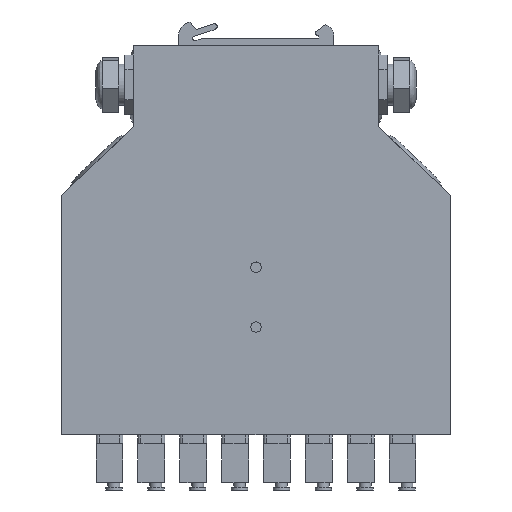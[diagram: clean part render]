
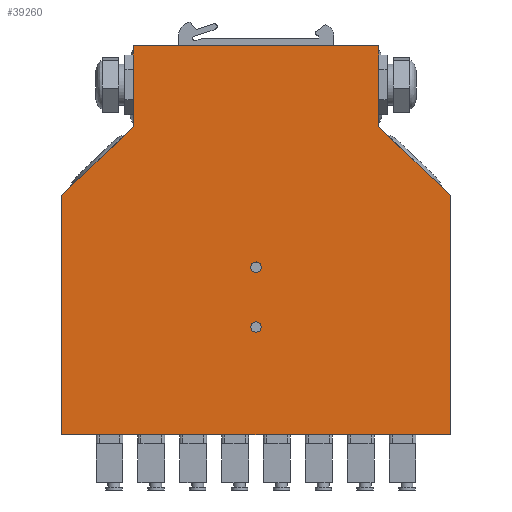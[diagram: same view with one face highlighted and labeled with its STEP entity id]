
A CAD part, front view. The second image highlights one B-rep face of the part: STEP entity #39260.
In plain terms, the highlighted planar face has unit normal (0, -1, 0).
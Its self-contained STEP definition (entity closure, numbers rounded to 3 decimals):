
#38947=CARTESIAN_POINT('',(41.,0.,130.));
#38948=VERTEX_POINT('',#38947);
#38949=CARTESIAN_POINT('',(41.,0.,103.));
#38950=VERTEX_POINT('',#38949);
#38951=CARTESIAN_POINT('',(41.,0.,130.));
#38952=DIRECTION('',(0.,0.,-1.));
#38953=VECTOR('',#38952,27.);
#38954=LINE('',#38951,#38953);
#38955=EDGE_CURVE('',#38948,#38950,#38954,.T.);
#38992=CARTESIAN_POINT('',(65.,0.,80.));
#38993=VERTEX_POINT('',#38992);
#38994=CARTESIAN_POINT('',(41.,0.,103.));
#38995=DIRECTION('',(0.722,0.,-0.692));
#38996=VECTOR('',#38995,33.242);
#38997=LINE('',#38994,#38996);
#38998=EDGE_CURVE('',#38950,#38993,#38997,.T.);
#39056=CARTESIAN_POINT('',(65.,0.,0.));
#39057=VERTEX_POINT('',#39056);
#39058=CARTESIAN_POINT('',(65.,0.,80.));
#39059=DIRECTION('',(-0.,0.,-1.));
#39060=VECTOR('',#39059,80.);
#39061=LINE('',#39058,#39060);
#39062=EDGE_CURVE('',#38993,#39057,#39061,.T.);
#39080=CARTESIAN_POINT('',(-65.,0.,0.));
#39081=VERTEX_POINT('',#39080);
#39082=CARTESIAN_POINT('',(65.,0.,0.));
#39083=DIRECTION('',(-1.,0.,0.));
#39084=VECTOR('',#39083,130.);
#39085=LINE('',#39082,#39084);
#39086=EDGE_CURVE('',#39057,#39081,#39085,.T.);
#39112=CARTESIAN_POINT('',(-65.,0.,80.));
#39113=VERTEX_POINT('',#39112);
#39114=CARTESIAN_POINT('',(-65.,0.,0.));
#39115=DIRECTION('',(0.,0.,1.));
#39116=VECTOR('',#39115,80.);
#39117=LINE('',#39114,#39116);
#39118=EDGE_CURVE('',#39081,#39113,#39117,.T.);
#39142=CARTESIAN_POINT('',(-41.,0.,103.));
#39143=VERTEX_POINT('',#39142);
#39144=CARTESIAN_POINT('',(-65.,0.,80.));
#39145=DIRECTION('',(0.722,0.,0.692));
#39146=VECTOR('',#39145,33.242);
#39147=LINE('',#39144,#39146);
#39148=EDGE_CURVE('',#39113,#39143,#39147,.T.);
#39169=CARTESIAN_POINT('',(-41.,0.,130.));
#39170=VERTEX_POINT('',#39169);
#39171=CARTESIAN_POINT('',(-41.,0.,103.));
#39172=DIRECTION('',(-0.,0.,1.));
#39173=VECTOR('',#39172,27.);
#39174=LINE('',#39171,#39173);
#39175=EDGE_CURVE('',#39143,#39170,#39174,.T.);
#39193=CARTESIAN_POINT('',(-41.,0.,130.));
#39194=DIRECTION('',(1.,0.,-0.));
#39195=VECTOR('',#39194,82.);
#39196=LINE('',#39193,#39195);
#39197=EDGE_CURVE('',#39170,#38948,#39196,.T.);
#39205=CARTESIAN_POINT('',(0.,0.,0.));
#39206=DIRECTION('',(0.,1.,0.));
#39207=DIRECTION('',(-1.,0.,0.));
#39208=AXIS2_PLACEMENT_3D('',#39205,#39206,#39207);
#39209=PLANE('',#39208);
#39210=CARTESIAN_POINT('',(0.,0.,34.25));
#39211=VERTEX_POINT('',#39210);
#39212=CARTESIAN_POINT('',(0.,0.,37.75));
#39213=VERTEX_POINT('',#39212);
#39214=CARTESIAN_POINT('',(0.,0.,36.));
#39215=DIRECTION('',(0.,-1.,0.));
#39216=DIRECTION('',(0.,0.,1.));
#39217=AXIS2_PLACEMENT_3D('',#39214,#39215,#39216);
#39218=CIRCLE('',#39217,1.75);
#39219=EDGE_CURVE('',#39211,#39213,#39218,.T.);
#39220=ORIENTED_EDGE('',*,*,#39219,.F.);
#39221=CARTESIAN_POINT('',(0.,0.,36.));
#39222=DIRECTION('',(0.,-1.,0.));
#39223=DIRECTION('',(0.,0.,1.));
#39224=AXIS2_PLACEMENT_3D('',#39221,#39222,#39223);
#39225=CIRCLE('',#39224,1.75);
#39226=EDGE_CURVE('',#39213,#39211,#39225,.T.);
#39227=ORIENTED_EDGE('',*,*,#39226,.F.);
#39228=EDGE_LOOP('',(#39220,#39227));
#39229=FACE_BOUND('',#39228,.T.);
#39230=CARTESIAN_POINT('',(0.,0.,54.25));
#39231=VERTEX_POINT('',#39230);
#39232=CARTESIAN_POINT('',(1.75,0.,56.));
#39233=VERTEX_POINT('',#39232);
#39234=CARTESIAN_POINT('',(0.,0.,56.));
#39235=DIRECTION('',(0.,-1.,0.));
#39236=DIRECTION('',(1.,0.,-0.));
#39237=AXIS2_PLACEMENT_3D('',#39234,#39235,#39236);
#39238=CIRCLE('',#39237,1.75);
#39239=EDGE_CURVE('',#39231,#39233,#39238,.T.);
#39240=ORIENTED_EDGE('',*,*,#39239,.F.);
#39241=CARTESIAN_POINT('',(0.,0.,56.));
#39242=DIRECTION('',(0.,-1.,0.));
#39243=DIRECTION('',(1.,0.,-0.));
#39244=AXIS2_PLACEMENT_3D('',#39241,#39242,#39243);
#39245=CIRCLE('',#39244,1.75);
#39246=EDGE_CURVE('',#39233,#39231,#39245,.T.);
#39247=ORIENTED_EDGE('',*,*,#39246,.F.);
#39248=EDGE_LOOP('',(#39240,#39247));
#39249=FACE_BOUND('',#39248,.T.);
#39250=ORIENTED_EDGE('',*,*,#38955,.F.);
#39251=ORIENTED_EDGE('',*,*,#39197,.F.);
#39252=ORIENTED_EDGE('',*,*,#39175,.F.);
#39253=ORIENTED_EDGE('',*,*,#39148,.F.);
#39254=ORIENTED_EDGE('',*,*,#39118,.F.);
#39255=ORIENTED_EDGE('',*,*,#39086,.F.);
#39256=ORIENTED_EDGE('',*,*,#39062,.F.);
#39257=ORIENTED_EDGE('',*,*,#38998,.F.);
#39258=EDGE_LOOP('',(#39250,#39251,#39252,#39253,#39254,#39255,#39256,#39257));
#39259=FACE_BOUND('',#39258,.T.);
#39260=ADVANCED_FACE('',(#39229,#39249,#39259),#39209,.F.);
